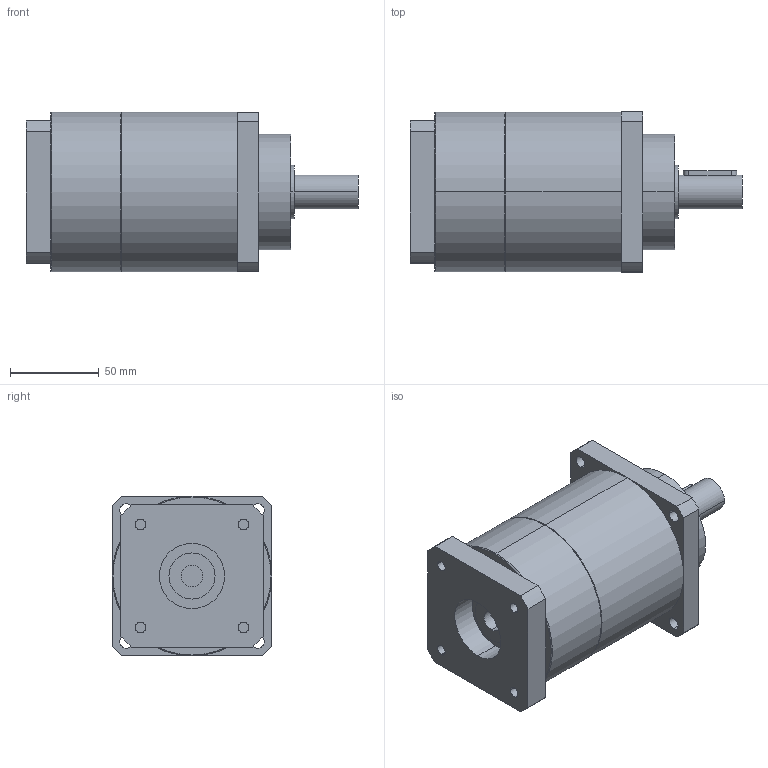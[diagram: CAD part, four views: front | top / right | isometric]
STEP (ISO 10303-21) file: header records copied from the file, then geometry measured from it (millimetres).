
FILE_DESCRIPTION(('CoCreate Modeling STEP Export'),'2;1');
FILE_NAME('GPT90_ig-9-12-16-20-25-28-35-40-50-70-100_19_B5T_12_P27.stp','2015-02-04T11:28:51',(''),(''),'CoCreate Modeling STEP processor for AP214 (Solid Model)','CoCreate Modeling 16.00C 25-Feb-2009 (C) Parametric Technology GmbH','');
FILE_SCHEMA(('AUTOMOTIVE_DESIGN { 1 0 10303 214 1 1 1 1 }'));
Length unit declared in the file: millimetre
Products named in the file (2): GPT90_ig-9-12-16-20-25-28-35-40-50-70-100_19_B5T_12_P27
Assembly tree (1 placements, depth 2):
  GPT90_ig-9-12-16-20-25-28-35-40-50-70-100_19_B5T_12_P27
    GPT90_ig-9-12-16-20-25-28-35-40-50-70-100_19_B5T_12_P27
Bounding box: 187 x 90 x 90 mm (x, y, z)
Volume: 903777.1 mm3; surface area: 67010 mm2
Topology: 1 solids, 1 shells, 85 faces, 214 edges, 143 vertices
Faces by surface type: cylinder 44, plane 37, cone 4
Entity records: 2629 total; most frequent: CARTESIAN_POINT 743, ORIENTED_EDGE 428, DIRECTION 320, EDGE_CURVE 214, VERTEX_POINT 143, AXIS2_PLACEMENT_3D 117, EDGE_LOOP 105, VECTOR 86
